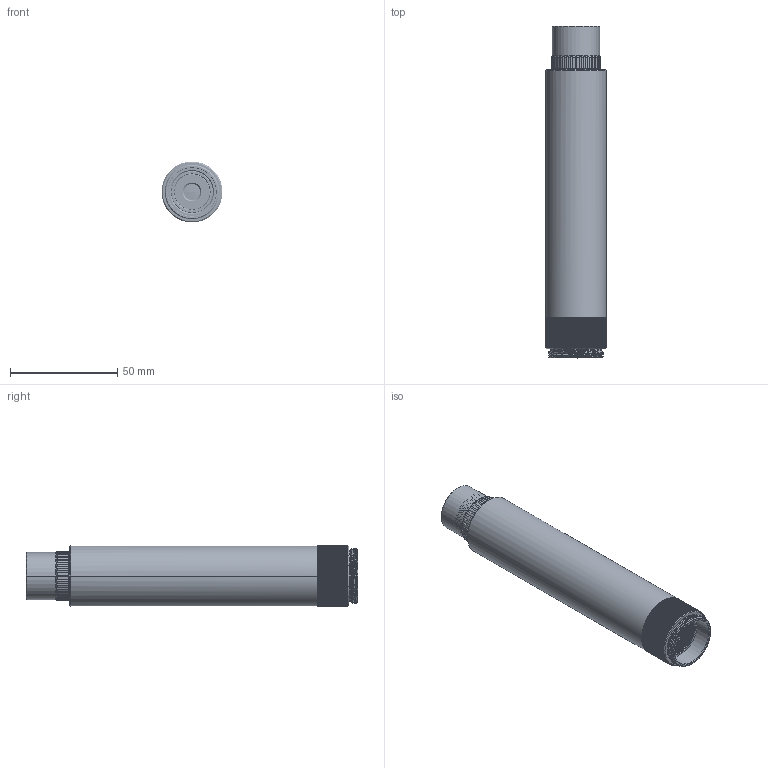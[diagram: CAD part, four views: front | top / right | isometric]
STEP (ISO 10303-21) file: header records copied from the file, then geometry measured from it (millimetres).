
FILE_DESCRIPTION((''),'2;1');
FILE_NAME('TMN_4-0_20','2019-02-12T',('kevin.wileman'),(''),'CREO PARAMETRIC BY PTC INC, 2015480','CREO PARAMETRIC BY PTC INC, 2015480','');
FILE_SCHEMA(('AUTOMOTIVE_DESIGN { 1 0 10303 214 1 1 1 1 }'));
Products named in the file (1): TMN_4-0_20
Bounding box: 28.3 x 154.5 x 28.3 mm (x, y, z)
Volume: 48545.9 mm3; surface area: 33406.7 mm2
Topology: 1 solids, 1 shells, 2285 faces, 6489 edges, 4222 vertices
Faces by surface type: plane 1344, cylinder 644, bspline 237, cone 50, torus 6, sphere 4
Entity records: 187915 total; most frequent: CARTESIAN_POINT 132294, ORIENTED_EDGE 12970, DIRECTION 9107, EDGE_CURVE 6485, VERTEX_POINT 4222, VECTOR 3213, LINE 3213, AXIS2_PLACEMENT_3D 2947
